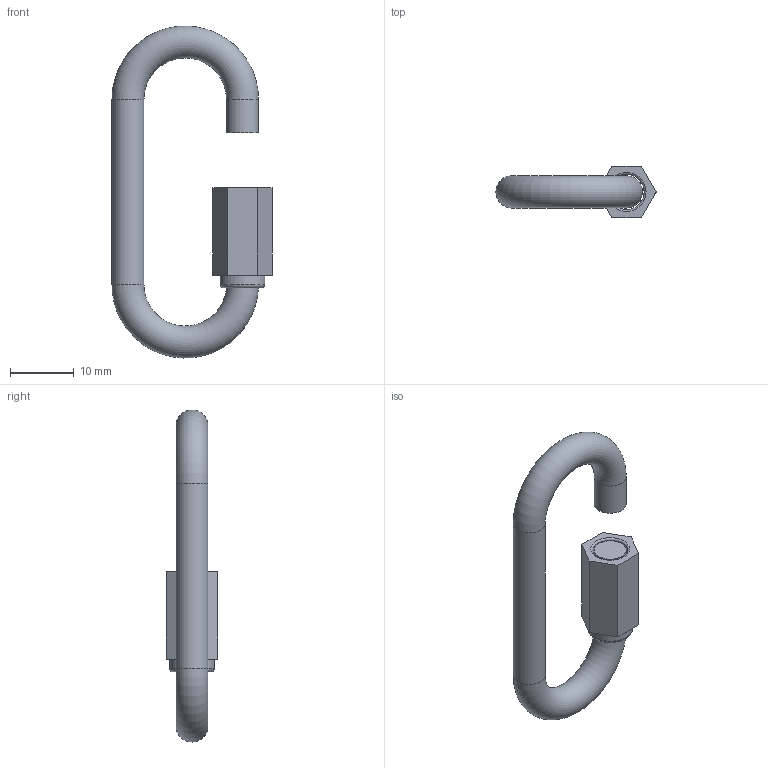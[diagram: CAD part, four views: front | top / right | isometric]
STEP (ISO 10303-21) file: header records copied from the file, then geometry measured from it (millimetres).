
FILE_DESCRIPTION(('STEP AP214'),'1');
FILE_NAME('SH5.stp','2017-07-18T06:30:54',(' '),(' '),'Spatial InterOp 3D',' ',' ');
FILE_SCHEMA(('automotive_design'));
Length unit declared in the file: millimetre
Products named in the file (3): SH5; SH5_B; SH5_A
Assembly tree (2 placements, depth 2):
  SH5
    SH5_B
    SH5_A
Bounding box: 25.03 x 8 x 51.9 mm (x, y, z)
Volume: 2521.2 mm3; surface area: 2477.1 mm2
Topology: 2 solids, 3 shells, 28 faces, 59 edges, 38 vertices
Faces by surface type: plane 19, cylinder 5, torus 4
Full cylindrical faces by diameter (mm): 5 x3, 5.5 x1, 7 x1
Entity records: 970 total; most frequent: DIRECTION 122, CARTESIAN_POINT 115, ORIENTED_EDGE 96, EDGE_CURVE 48, AXIS2_PLACEMENT_3D 43, EDGE_LOOP 40, FACE_OUTER_BOUND 37, VERTEX_POINT 36
